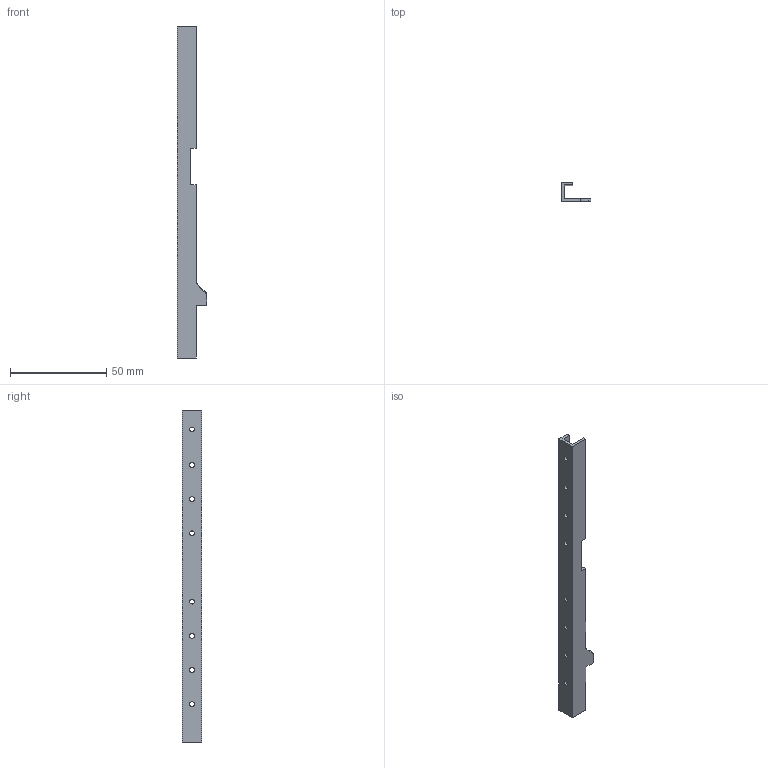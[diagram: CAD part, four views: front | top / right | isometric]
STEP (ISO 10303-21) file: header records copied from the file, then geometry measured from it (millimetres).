
FILE_DESCRIPTION(/* description */ (''),/* implementation_level */ '2;1');
FILE_NAME(/* name */ 'D:\Downloads\Plastikov-v1-3\STEP\Plastikov v1.1 Left Rail.stp',/* time_stamp */ '2020-05-01T16:54:55-05:00',/* author */ ('johne'),/* organization */ (''),/* preprocessor_version */ 'ST-DEVELOPER v18',/* originating_system */ 'Autodesk Inventor 2020',/* authorisation */ '');
FILE_SCHEMA (('AUTOMOTIVE_DESIGN { 1 0 10303 214 3 1 1 }'));
Length unit declared in the file: inch
Products named in the file (1): Plastikov v1.0 Left Rail
Bounding box: 15.44 x 10 x 172.77 mm (x, y, z)
Volume: 5887.8 mm3; surface area: 8551 mm2
Topology: 1 solids, 1 shells, 30 faces, 90 edges, 62 vertices
Faces by surface type: plane 18, cylinder 10, cone 2
Full cylindrical faces by diameter (mm): 2.5 x8
Entity records: 1106 total; most frequent: CARTESIAN_POINT 185, DIRECTION 181, ORIENTED_EDGE 180, EDGE_CURVE 90, VERTEX_POINT 62, AXIS2_PLACEMENT_3D 61, LINE 59, VECTOR 59
